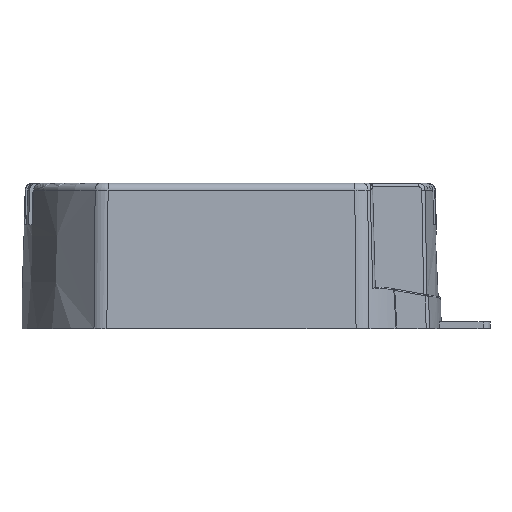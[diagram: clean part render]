
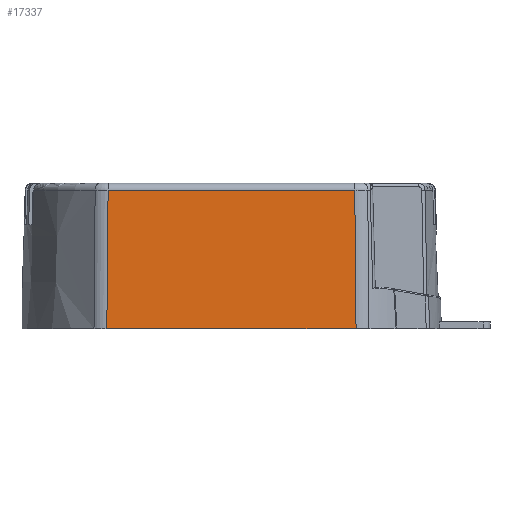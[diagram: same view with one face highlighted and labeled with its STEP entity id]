
A CAD part, left-side view. The second image highlights one B-rep face of the part: STEP entity #17337.
In plain terms, the highlighted planar face has unit normal (-1, 0, 0.026).
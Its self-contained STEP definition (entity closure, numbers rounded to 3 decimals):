
#642=CARTESIAN_POINT('',(-22.25,51.835,
0.));
#5968=DIRECTION('',(0.,1.,0.));
#5969=VECTOR('',#5968,35.623);
#5970=CARTESIAN_POINT('',(-21.726,16.028,20.026));
#5971=LINE('',#5970,#5969);
#6021=DIRECTION('',(-0.026,-0.009,-1.));
#6022=VECTOR('',#6021,20.034);
#6023=CARTESIAN_POINT('',(-21.726,16.028,20.026));
#6024=LINE('',#6023,#6022);
#6025=DIRECTION('',(0.,1.,0.));
#6026=VECTOR('',#6025,35.989);
#6027=CARTESIAN_POINT('',(-22.25,15.846,
0.));
#6028=LINE('',#6027,#6026);
#6029=DIRECTION('',(0.026,-0.009,1.));
#6030=VECTOR('',#6029,20.034);
#6031=CARTESIAN_POINT('',(-22.25,51.835,
0.));
#6032=LINE('',#6031,#6030);
#10029=VERTEX_POINT('',#642);
#10030=CARTESIAN_POINT('',(-22.25,15.846,
0.));
#10031=VERTEX_POINT('',#10030);
#10421=CARTESIAN_POINT('',(-21.726,51.652,
20.026));
#10422=VERTEX_POINT('',#10421);
#10423=CARTESIAN_POINT('',(-21.726,16.028,
20.026));
#10424=VERTEX_POINT('',#10423);
#17325=CARTESIAN_POINT('',(-22.25,54.201,0.));
#17326=DIRECTION('',(-1.,0.,0.026));
#17327=DIRECTION('',(0.,1.,0.));
#17328=AXIS2_PLACEMENT_3D('',#17325,#17326,#17327);
#17329=PLANE('',#17328);
#17330=ORIENTED_EDGE('',*,*,#17279,.F.);
#17331=ORIENTED_EDGE('',*,*,#17320,.T.);
#17332=ORIENTED_EDGE('',*,*,#11915,.T.);
#17334=ORIENTED_EDGE('',*,*,#17333,.T.);
#17335=EDGE_LOOP('',(#17330,#17331,#17332,#17334));
#17336=FACE_OUTER_BOUND('',#17335,.F.);
#17337=ADVANCED_FACE('',(#17336),#17329,.T.);
#11915=EDGE_CURVE('',#10031,#10029,#6028,.T.);
#17279=EDGE_CURVE('',#10424,#10422,#5971,.T.);
#17320=EDGE_CURVE('',#10424,#10031,#6024,.T.);
#17333=EDGE_CURVE('',#10029,#10422,#6032,.T.);
